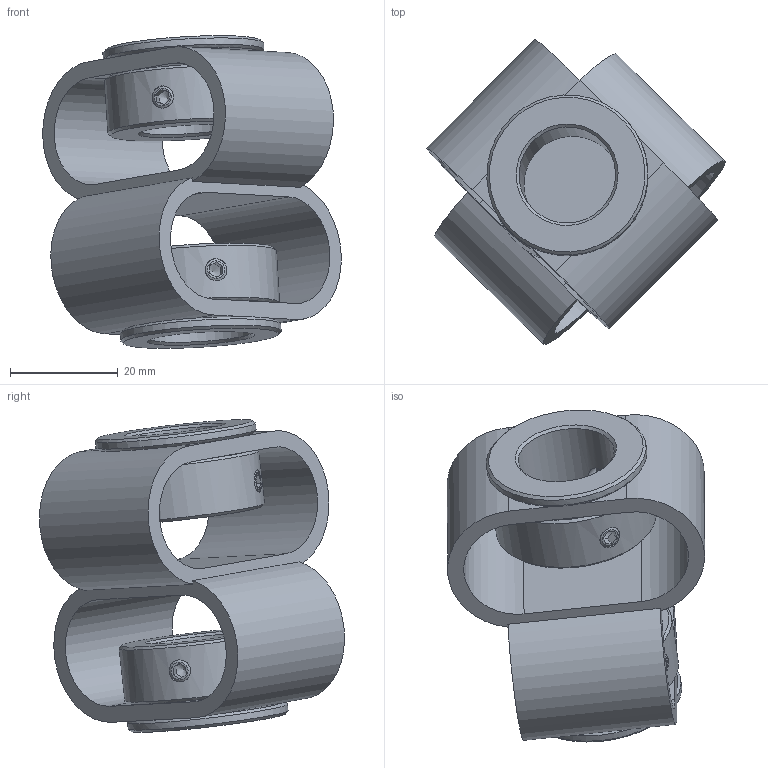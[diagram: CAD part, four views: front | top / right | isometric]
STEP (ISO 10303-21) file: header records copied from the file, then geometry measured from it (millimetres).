
FILE_DESCRIPTION(/* description */ (''),/* implementation_level */ '2;1');
FILE_NAME(/* name */ 'E:\ABP_bauteile\Doppelschlaufenkupplung\DKPS_5658\Doppelschlaufenkupplung_DKPS_5658_18_19.stp',/* time_stamp */ '2015-03-13T11:59:00+01:00',/* author */ ('Rob'),/* organization */ (''),/* preprocessor_version */ 'ST-DEVELOPER v15.6',/* originating_system */ 'Autodesk Inventor 2015',/* authorisation */ '');
FILE_SCHEMA (('CONFIG_CONTROL_DESIGN'));
Length unit declared in the file: millimetre
Products named in the file (1): Bauteil64
Bounding box: 55.53 x 56.74 x 58.16 mm (x, y, z)
Volume: 28073.8 mm3; surface area: 17987.9 mm2
Topology: 1 solids, 1 shells, 142 faces, 360 edges, 218 vertices
Faces by surface type: plane 84, cone 30, cylinder 28
Full cylindrical faces by diameter (mm): 4.134 x8, 18 x1, 19 x1, 21.5 x2, 23 x4, 30 x4
Entity records: 4088 total; most frequent: CARTESIAN_POINT 1027, DIRECTION 646, ORIENTED_EDGE 556, EDGE_CURVE 278, AXIS2_PLACEMENT_3D 257, EDGE_LOOP 210, VERTEX_POINT 182, FACE_OUTER_BOUND 142
